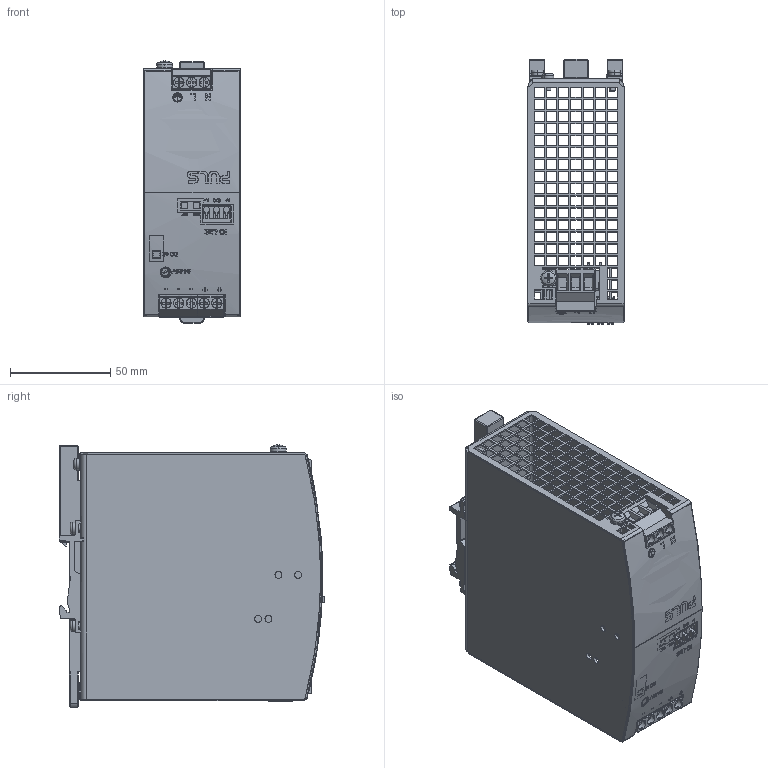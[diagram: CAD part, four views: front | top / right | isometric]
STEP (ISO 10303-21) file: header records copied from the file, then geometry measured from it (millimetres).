
FILE_DESCRIPTION (( 'STEP AP214' ), '1' );
FILE_NAME ('1024998_000.STEP', '2025-02-03T09:40:31', ( '' ), ( '' ), 'SwSTEP 2.0', 'SolidWorks 2024', '' );
FILE_SCHEMA (( 'AUTOMOTIVE_DESIGN' ));
Length unit declared in the file: millimetre
Products named in the file (14): 1018360_000_Feat_Config; 1018319_000_Feat_Config; 1024998_000; 1018473_000_BRep_Config; 1024999_000_EW-457_991_00; 1025000_000_EW-426_992_18; 1013501_000_Feat_Config; 1018355_000_Feat_Config; 1025001_000_EL-457.940.00; 1013463_000_Feat_Config; 1018350_000; 1018315_000_BRep_Config; 1015094_000_BRep_Config; 1015157_000_BRep_Config
Assembly tree (22 placements, depth 2):
  1024998_000
    1025000_000_EW-426_992_18
    1024999_000_EW-457_991_00
    1025001_000_EL-457.940.00
    1018360_000_Feat_Config  x6
    1013463_000_Feat_Config
    1013501_000_Feat_Config
    1018355_000_Feat_Config
    1018350_000  x2
    1018473_000_BRep_Config  x2
    1018315_000_BRep_Config
    1015094_000_BRep_Config
    1018319_000_Feat_Config  x3
    1015157_000_BRep_Config
Bounding box: 48 x 132.4 x 130.92 mm (x, y, z)
Volume: 86094.9 mm3; surface area: 121759.7 mm2
Topology: 31 solids, 34 shells, 2601 faces, 7473 edges, 5039 vertices
Faces by surface type: plane 2018, cylinder 431, cone 91, bspline 26, torus 23, sphere 12
Entity records: 86381 total; most frequent: CARTESIAN_POINT 27609, ORIENTED_EDGE 12574, DIRECTION 10936, EDGE_CURVE 6287, VECTOR 5198, LINE 5198, VERTEX_POINT 4274, AXIS2_PLACEMENT_3D 2869
